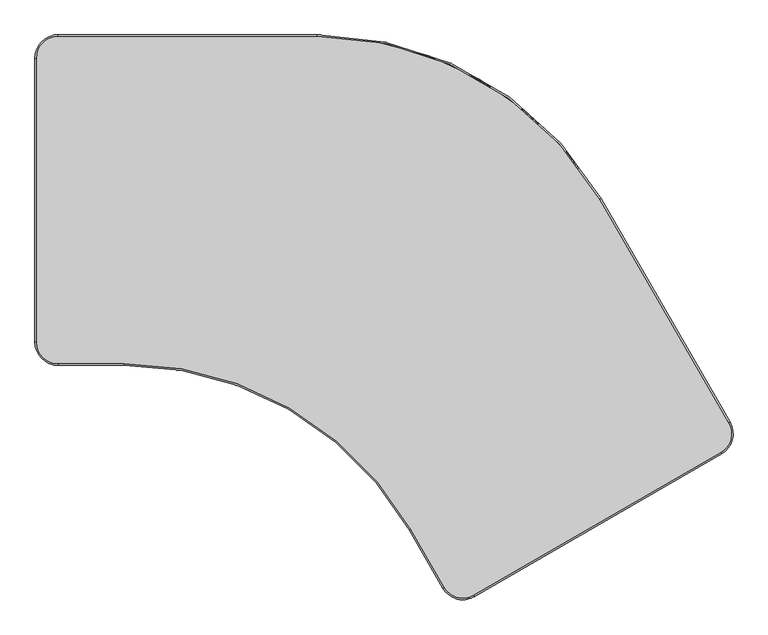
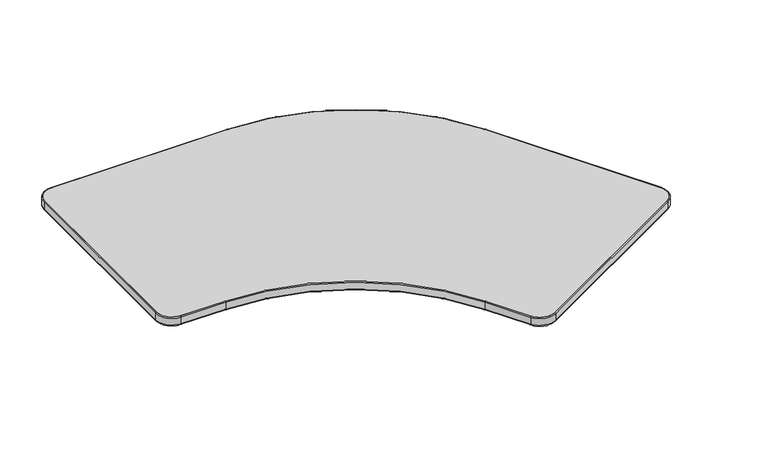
"""IFC4 building model written with IfcOpenShell, lengths in millimetres: furniture geometry, Steelcase - Answer Solution - Universal Table - Corner 120deg - 3mm Edge : 30D x 42W."""

from ifc_helpers import new_model, si_unit, point, frame, frame_2d, origin, place, context, project, spatial, polyline, circle_curve, ellipse_curve, trimmed, segment, composite_curve, outline, extrude, source, transform, mapped, element, save
from ifc_brep_helpers import plane_surface, cylinder_surface, revolved_surface, advanced_brep


def furniture_54dfe461(model_context):
    return source(origin(), model_context, "Body", "SolidModel", [
        advanced_brep(
        [(53.848, -764.8829001, 641.1117977), (0.0, -711.0349001, 641.1117977), (3.048, -711.0349001, 638.1749651), (53.848, -761.8349001, 638.1749651), (53.848, -764.8829001, 665.302106), (0.0, -711.0349001, 665.302106), (53.848, -761.8349001, 668.274), (3.048, -711.0349001, 668.274), (206.1813958, -761.8349001, 638.1749651), (206.1813958, -764.8829001, 641.1117977), (206.1813958, -764.8829001, 665.302106), (206.1813958, -761.8349001, 668.274), (866.5569227, -1146.1508884, 641.1117977), (869.1965682, -1144.6268884, 638.1749651), (866.5569227, -1146.1508884, 665.302106), (869.1965682, -1144.6268884, 668.274), (946.8890581, -1279.1942284, 638.1749651), (944.2494127, -1280.7182284, 641.1117977), (944.2494127, -1280.7182284, 665.302106), (946.8890581, -1279.1942284, 668.274), (1017.8071487, -1300.4279643, 641.1117977), (1016.2831487, -1297.7883189, 638.1749651), (1017.8071487, -1300.4279643, 665.302106), (1016.2831487, -1297.7883189, 668.274), (1588.2063253, -967.5883189, 638.1749651), (1589.7303253, -970.2279643, 641.1117977), (1589.7303253, -970.2279643, 665.302106), (1588.2063253, -967.5883189, 668.274), (1609.4400613, -896.6702284, 641.1117977), (1606.8004158, -898.1942284, 638.1749651), (1609.4400613, -896.6702284, 665.302106), (1606.8004158, -898.1942284, 668.274), (1308.1028684, -380.8349001, 638.1749651), (1310.7425138, -379.3109001, 641.1117977), (1310.7425138, -379.3109001, 665.302106), (1308.1028684, -380.8349001, 668.274), (653.690772, 0.0380999, 641.1117977), (653.690772, -3.0099001, 638.1749651), (653.690772, 0.0380999, 665.302106), (653.690772, -3.0099001, 668.274), (53.848, -3.0099001, 638.1749651), (53.848, 0.0380999, 641.1117977), (53.848, 0.0380999, 665.302106), (53.848, -3.0099001, 668.274), (0.0, -53.8099001, 641.1117977), (3.048, -53.8099001, 638.1749651), (0.0, -53.8099001, 665.302106), (3.048, -53.8099001, 668.274)],
        [
            (0, 1, circle_curve(frame((53.848, -711.0349001, 641.1117977), z_axis=(0.0, 0.0, -1.0), x_axis=(-1.0, 0.0, 0.0)), 53.848)),
            (1, 2, circle_curve(frame((2.9388598, -711.0349001, 641.1117977), z_axis=(0.0, -1.0, 0.0), x_axis=(1.0, 0.0, 0.0)), 2.9388598)),
            (2, 3, circle_curve(frame((53.848, -711.0349001, 638.1749651), z_axis=(0.0, 0.0, 1.0), x_axis=(-1.0, 0.0, 0.0)), 50.8)),
            (3, 0, circle_curve(frame((53.848, -761.9440403, 641.1117977), z_axis=(-1.0, 0.0, 0.0), x_axis=(0.0, 1.0, 0.0)), 2.9388598)),
            (4, 5, circle_curve(frame((53.848, -711.0349001, 665.302106), z_axis=(0.0, 0.0, -1.0), x_axis=(-1.0, 0.0, 0.0)), 53.848)),
            (5, 1),
            (0, 4),
            (6, 7, circle_curve(frame((53.848, -711.0349001, 668.274), z_axis=(0.0, 0.0, -1.0), x_axis=(-1.0, 0.0, 0.0)), 50.8)),
            (7, 5, circle_curve(frame((2.9728441, -711.0349001, 665.302106), z_axis=(0.0, -1.0, 0.0), x_axis=(1.0, 0.0, 0.0)), 2.9728441)),
            (4, 6, circle_curve(frame((53.848, -761.910056, 665.302106), z_axis=(-1.0, 0.0, 0.0), x_axis=(0.0, 1.0, 0.0)), 2.9728441)),
            (2, 7),
            (6, 3),
            (3, 8),
            (8, 9, circle_curve(frame((206.1813958, -761.9440403, 641.1117977), z_axis=(-1.0, 0.0, 0.0), x_axis=(0.0, 1.0, 0.0)), 2.9388598)),
            (9, 0),
            (9, 10),
            (10, 4),
            (10, 11, circle_curve(frame((206.1813958, -761.910056, 665.302106), z_axis=(-1.0, 0.0, 0.0), x_axis=(0.0, 1.0, 0.0)), 2.9728441)),
            (11, 6),
            (11, 8),
            (12, 9, circle_curve(frame((206.1813958, -1527.4188766, 641.1117977), z_axis=(0.0, 0.0, 1.0), x_axis=(0.0, 1.0, 0.0)), 762.5359765)),
            (8, 13, circle_curve(frame((206.1813958, -1527.4188766, 638.1749651), z_axis=(0.0, 0.0, -1.0), x_axis=(0.0, 1.0, 0.0)), 765.5839765)),
            (13, 12, circle_curve(frame((869.10205, -1144.6814584, 641.1117977), z_axis=(-0.49999999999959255, 0.8660254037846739, 0.0), x_axis=(0.8660254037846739, 0.49999999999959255, 0.0)), 2.9388598)),
            (14, 10, circle_curve(frame((206.1813958, -1527.4188766, 665.302106), z_axis=(0.0, 0.0, 1.0), x_axis=(0.0, 1.0, 0.0)), 762.5359765)),
            (12, 14),
            (15, 11, circle_curve(frame((206.1813958, -1527.4188766, 668.274), z_axis=(0.0, 0.0, 1.0), x_axis=(0.0, 1.0, 0.0)), 765.5839765)),
            (14, 15, circle_curve(frame((869.1314813, -1144.6644663, 665.302106), z_axis=(-0.49999999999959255, 0.8660254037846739, 0.0), x_axis=(0.8660254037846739, 0.49999999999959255, 0.0)), 2.9728441)),
            (15, 13),
            (13, 16),
            (16, 17, circle_curve(frame((946.79454, -1279.2487985, 641.1117977), z_axis=(-0.4999999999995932, 0.8660254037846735, 0.0), x_axis=(0.8660254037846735, 0.4999999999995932, 0.0)), 2.9388598)),
            (17, 12),
            (17, 18),
            (18, 14),
            (18, 19, circle_curve(frame((946.8239712, -1279.2318063, 665.302106), z_axis=(-0.4999999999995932, 0.8660254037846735, 0.0), x_axis=(0.8660254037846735, 0.4999999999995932, 0.0)), 2.9728441)),
            (19, 15),
            (19, 16),
            (20, 17, circle_curve(frame((990.8831487, -1253.7942284, 641.1117977), z_axis=(0.0, 0.0, -1.0), x_axis=(-0.8660254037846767, -0.4999999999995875, 0.0)), 53.848)),
            (16, 21, circle_curve(frame((990.8831487, -1253.7942284, 638.1749651), z_axis=(0.0, 0.0, 1.0), x_axis=(-0.8660254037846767, -0.4999999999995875, 0.0)), 50.8)),
            (21, 20, circle_curve(frame((1016.3377187, -1297.8828371, 641.1117977), z_axis=(-0.86602540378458, -0.4999999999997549, 0.0), x_axis=(-0.4999999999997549, 0.86602540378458, 0.0)), 2.9388598)),
            (22, 18, circle_curve(frame((990.8831487, -1253.7942284, 665.302106), z_axis=(0.0, 0.0, -1.0), x_axis=(-0.8660254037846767, -0.4999999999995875, 0.0)), 53.848)),
            (20, 22),
            (23, 19, circle_curve(frame((990.8831487, -1253.7942284, 668.274), z_axis=(0.0, 0.0, -1.0), x_axis=(-0.8660254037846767, -0.4999999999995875, 0.0)), 50.8)),
            (22, 23, circle_curve(frame((1016.3207266, -1297.8534058, 665.302106), z_axis=(-0.8660254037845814, -0.49999999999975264, 0.0), x_axis=(-0.49999999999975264, 0.8660254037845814, 0.0)), 2.9728441)),
            (23, 21),
            (21, 24),
            (24, 25, circle_curve(frame((1588.2608954, -967.6828371, 641.1117977), z_axis=(-0.8660254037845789, -0.49999999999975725, 0.0), x_axis=(-0.49999999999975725, 0.8660254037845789, 0.0)), 2.9388598)),
            (25, 20),
            (25, 26),
            (26, 22),
            (26, 27, circle_curve(frame((1588.2439033, -967.6534058, 665.302106), z_axis=(-0.8660254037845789, -0.49999999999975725, 0.0), x_axis=(-0.49999999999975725, 0.8660254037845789, 0.0)), 2.9728441)),
            (27, 23),
            (27, 24),
            (28, 25, circle_curve(frame((1562.8063253, -923.5942284, 641.1117977), z_axis=(0.0, 0.0, -1.0), x_axis=(0.49999999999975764, -0.8660254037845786, 0.0)), 53.848)),
            (24, 29, circle_curve(frame((1562.8063253, -923.5942284, 638.1749651), z_axis=(0.0, 0.0, 1.0), x_axis=(0.49999999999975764, -0.8660254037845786, 0.0)), 50.8)),
            (29, 28, circle_curve(frame((1606.894934, -898.1396583, 641.1117977), z_axis=(0.5000000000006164, -0.8660254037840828, 0.0), x_axis=(-0.8660254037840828, -0.5000000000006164, 0.0)), 2.9388598)),
            (30, 26, circle_curve(frame((1562.8063253, -923.5942284, 665.302106), z_axis=(0.0, 0.0, -1.0), x_axis=(0.49999999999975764, -0.8660254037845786, 0.0)), 53.848)),
            (28, 30),
            (31, 27, circle_curve(frame((1562.8063253, -923.5942284, 668.274), z_axis=(0.0, 0.0, -1.0), x_axis=(0.49999999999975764, -0.8660254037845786, 0.0)), 50.8)),
            (30, 31, circle_curve(frame((1606.8655027, -898.1566505, 665.302106), z_axis=(0.5000000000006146, -0.8660254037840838, 0.0), x_axis=(-0.8660254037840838, -0.5000000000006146, 0.0)), 2.9728441)),
            (31, 29),
            (29, 32),
            (32, 33, circle_curve(frame((1308.1973865, -380.7803301, 641.1117977), z_axis=(0.5000000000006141, -0.8660254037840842, 0.0), x_axis=(-0.8660254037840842, -0.5000000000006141, 0.0)), 2.9388598)),
            (33, 28),
            (33, 34),
            (34, 30),
            (34, 35, circle_curve(frame((1308.1679553, -380.7973222, 665.302106), z_axis=(0.5000000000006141, -0.8660254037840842, 0.0), x_axis=(-0.8660254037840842, -0.5000000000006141, 0.0)), 2.9728441)),
            (35, 31),
            (35, 32),
            (36, 33, circle_curve(frame((653.690772, -758.6599001, 641.1117977), z_axis=(0.0, 0.0, -1.0), x_axis=(0.8660254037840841, 0.5000000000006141, 0.0)), 758.698)),
            (32, 37, circle_curve(frame((653.690772, -758.6599001, 638.1749651), z_axis=(0.0, 0.0, 1.0), x_axis=(0.8660254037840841, 0.5000000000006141, 0.0)), 755.65)),
            (37, 36, circle_curve(frame((653.690772, -2.90076, 641.1117977), z_axis=(1.0, 0.0, 0.0), x_axis=(0.0, -1.0, 0.0)), 2.9388598)),
            (38, 34, circle_curve(frame((653.690772, -758.6599001, 665.302106), z_axis=(0.0, 0.0, -1.0), x_axis=(0.8660254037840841, 0.5000000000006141, 0.0)), 758.698)),
            (36, 38),
            (39, 35, circle_curve(frame((653.690772, -758.6599001, 668.274), z_axis=(0.0, 0.0, -1.0), x_axis=(0.8660254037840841, 0.5000000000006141, 0.0)), 755.65)),
            (38, 39, circle_curve(frame((653.690772, -2.9347443, 665.302106), z_axis=(1.0, 0.0, 0.0), x_axis=(0.0, -1.0, 0.0)), 2.9728441)),
            (39, 37),
            (37, 40),
            (40, 41, circle_curve(frame((53.848, -2.90076, 641.1117977), z_axis=(1.0, 0.0, 0.0), x_axis=(0.0, -1.0, 0.0)), 2.9388598)),
            (41, 36),
            (41, 42),
            (42, 38),
            (42, 43, circle_curve(frame((53.848, -2.9347443, 665.302106), z_axis=(1.0, 0.0, 0.0), x_axis=(0.0, -1.0, 0.0)), 2.9728441)),
            (43, 39),
            (43, 40),
            (44, 41, circle_curve(frame((53.848, -53.8099001, 641.1117977), z_axis=(0.0, 0.0, -1.0), x_axis=(0.0, 1.0, 0.0)), 53.848)),
            (40, 45, circle_curve(frame((53.848, -53.8099001, 638.1749651), z_axis=(0.0, 0.0, 1.0), x_axis=(0.0, 1.0, 0.0)), 50.8)),
            (45, 44, circle_curve(frame((2.9388598, -53.8099001, 641.1117977), z_axis=(0.0, 1.0, 0.0), x_axis=(1.0, 0.0, 0.0)), 2.9388598)),
            (46, 42, circle_curve(frame((53.848, -53.8099001, 665.302106), z_axis=(0.0, 0.0, -1.0), x_axis=(0.0, 1.0, 0.0)), 53.848)),
            (44, 46),
            (47, 43, circle_curve(frame((53.848, -53.8099001, 668.274), z_axis=(0.0, 0.0, -1.0), x_axis=(0.0, 1.0, 0.0)), 50.8)),
            (46, 47, circle_curve(frame((2.9728441, -53.8099001, 665.302106), z_axis=(0.0, 1.0, 0.0), x_axis=(1.0, 0.0, 0.0)), 2.9728441)),
            (47, 45),
            (45, 2),
            (1, 44),
            (5, 46),
            (7, 47),
        ],
        [
            revolved_surface(trimmed(ellipse_curve(frame((2.9388598, -711.0349001, 641.1117977), z_axis=(0.0, 1.0, 0.0), x_axis=(1.0, 0.0, 0.0)), 2.9388598, 2.9388598), [point((3.048, -711.0349001, 638.1749651))], [point((0.0, -711.0349001, 641.1117977))], True, "CARTESIAN"), (53.848, -711.0349001, 668.274), (0.0, 0.0, 1.0)),
            cylinder_surface(frame((53.848, -711.0349001, 668.274), z_axis=(0.0, 0.0, 1.0), x_axis=(-1.0, 0.0, 0.0)), 53.848),
            revolved_surface(trimmed(ellipse_curve(frame((2.9728441, -711.0349001, 665.302106), z_axis=(0.0, 1.0, 0.0), x_axis=(1.0, 0.0, 0.0)), 2.9728441, 2.9728441), [point((0.0, -711.0349001, 665.302106))], [point((3.048, -711.0349001, 668.274))], True, "CARTESIAN"), (53.848, -711.0349001, 668.274), (0.0, 0.0, 1.0)),
            revolved_surface(polyline([(3.048000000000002, -711.0349001, 668.274), (3.048000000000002, -711.0349001, 638.1749651)]), (53.848, -711.0349001, 668.274), (0.0, 0.0, 1.0)),
            cylinder_surface(frame((53.848, -761.9440403, 641.1117977), z_axis=(-1.0, 0.0, 0.0), x_axis=(0.0, 1.0, 0.0)), 2.9388598),
            plane_surface(frame((53.848, -764.8829001, 641.1117977), z_axis=(0.0, -1.0, 0.0), x_axis=(1.0, 0.0, 0.0))),
            cylinder_surface(frame((53.848, -761.910056, 665.302106), z_axis=(-1.0, 0.0, 0.0), x_axis=(0.0, 1.0, 0.0)), 2.9728441),
            plane_surface(frame((53.848, -761.8349001, 668.274), z_axis=(0.0, 1.0, 0.0), x_axis=(1.0, 0.0, 0.0))),
            revolved_surface(trimmed(ellipse_curve(frame((206.1813958, -761.9440403, 641.1117977), z_axis=(-1.0, 0.0, 0.0), x_axis=(0.0, 1.0, 0.0)), 2.9388598, 2.9388598), [point((206.1813958, -761.8349001, 638.1749651))], [point((206.1813958, -764.8829001, 641.1117977))], True, "CARTESIAN"), (206.1813958, -1527.4188766, 668.274), (0.0, 0.0, -1.0)),
            revolved_surface(polyline([(206.1813958, -764.8829001, 641.1117977), (206.1813958, -764.8829001, 665.302106)]), (206.1813958, -1527.4188766, 668.274), (0.0, 0.0, -1.0)),
            revolved_surface(trimmed(ellipse_curve(frame((206.1813958, -761.910056, 665.302106), z_axis=(-1.0, 0.0, 0.0), x_axis=(0.0, 1.0, 0.0)), 2.9728441, 2.9728441), [point((206.1813958, -764.8829001, 665.302106))], [point((206.1813958, -761.8349001, 668.274))], True, "CARTESIAN"), (206.1813958, -1527.4188766, 668.274), (0.0, 0.0, -1.0)),
            cylinder_surface(frame((206.1813958, -1527.4188766, 668.274), z_axis=(0.0, 0.0, -1.0), x_axis=(0.0, 1.0, 0.0)), 765.5839765),
            cylinder_surface(frame((869.10205, -1144.6814584, 641.1117977), z_axis=(-0.4999999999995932, 0.8660254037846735, 0.0), x_axis=(0.8660254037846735, 0.4999999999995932, 0.0)), 2.9388598),
            plane_surface(frame((866.5569227, -1146.1508884, 641.1117977), z_axis=(-0.8660254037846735, -0.4999999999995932, 0.0), x_axis=(0.4999999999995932, -0.8660254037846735, 0.0))),
            cylinder_surface(frame((869.1314813, -1144.6644663, 665.302106), z_axis=(-0.4999999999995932, 0.8660254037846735, 0.0), x_axis=(0.8660254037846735, 0.4999999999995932, 0.0)), 2.9728441),
            plane_surface(frame((869.1965682, -1144.6268884, 668.274), z_axis=(0.8660254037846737, 0.4999999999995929, 0.0), x_axis=(0.4999999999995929, -0.8660254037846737, 0.0))),
            revolved_surface(trimmed(ellipse_curve(frame((946.79454, -1279.2487985, 641.1117977), z_axis=(-0.4999999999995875, 0.8660254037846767, 0.0), x_axis=(0.8660254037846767, 0.4999999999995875, 0.0)), 2.9388598, 2.9388598), [point((946.8890581, -1279.1942284, 638.1749651))], [point((944.2494127, -1280.7182284, 641.1117977))], True, "CARTESIAN"), (990.8831487, -1253.7942284, 668.274), (0.0, 0.0, 1.0)),
            cylinder_surface(frame((990.8831487, -1253.7942284, 668.274), z_axis=(0.0, 0.0, 1.0), x_axis=(-0.8660254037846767, -0.4999999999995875, 0.0)), 53.848),
            revolved_surface(trimmed(ellipse_curve(frame((946.8239712, -1279.2318063, 665.302106), z_axis=(-0.4999999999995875, 0.8660254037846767, 0.0), x_axis=(0.8660254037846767, 0.4999999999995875, 0.0)), 2.9728441, 2.9728441), [point((944.2494127, -1280.7182284, 665.302106))], [point((946.8890581, -1279.1942284, 668.274))], True, "CARTESIAN"), (990.8831487, -1253.7942284, 668.274), (0.0, 0.0, 1.0)),
            revolved_surface(polyline([(946.8890581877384, -1279.194228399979, 668.274), (946.8890581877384, -1279.194228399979, 638.1749651)]), (990.8831487, -1253.7942284, 668.274), (0.0, 0.0, 1.0)),
            cylinder_surface(frame((1016.3377187, -1297.8828371, 641.1117977), z_axis=(-0.8660254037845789, -0.49999999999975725, 0.0), x_axis=(-0.49999999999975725, 0.8660254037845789, 0.0)), 2.9388598),
            plane_surface(frame((1017.8071487, -1300.4279643, 641.1117977), z_axis=(0.4999999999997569, -0.8660254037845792, 0.0), x_axis=(0.8660254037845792, 0.4999999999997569, 0.0))),
            cylinder_surface(frame((1016.3207266, -1297.8534058, 665.302106), z_axis=(-0.8660254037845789, -0.49999999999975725, 0.0), x_axis=(-0.49999999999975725, 0.8660254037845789, 0.0)), 2.9728441),
            plane_surface(frame((1016.2831487, -1297.7883189, 668.274), z_axis=(-0.49999999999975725, 0.8660254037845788, 0.0), x_axis=(0.8660254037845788, 0.49999999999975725, 0.0))),
            revolved_surface(trimmed(ellipse_curve(frame((1588.2608954, -967.6828371, 641.1117977), z_axis=(-0.8660254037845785, -0.4999999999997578, 0.0), x_axis=(-0.4999999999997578, 0.8660254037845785, 0.0)), 2.9388598, 2.9388598), [point((1588.2063253, -967.5883189, 638.1749651))], [point((1589.7303253, -970.2279643, 641.1117977))], True, "CARTESIAN"), (1562.8063253, -923.5942284, 668.274), (0.0, 0.0, 1.0)),
            cylinder_surface(frame((1562.8063253, -923.5942284, 668.274), z_axis=(0.0, 0.0, 1.0), x_axis=(0.49999999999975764, -0.8660254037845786, 0.0)), 53.848),
            revolved_surface(trimmed(ellipse_curve(frame((1588.2439033, -967.6534058, 665.302106), z_axis=(-0.8660254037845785, -0.4999999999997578, 0.0), x_axis=(-0.4999999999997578, 0.8660254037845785, 0.0)), 2.9728441, 2.9728441), [point((1589.7303253, -970.2279643, 665.302106))], [point((1588.2063253, -967.5883189, 668.274))], True, "CARTESIAN"), (1562.8063253, -923.5942284, 668.274), (0.0, 0.0, 1.0)),
            revolved_surface(polyline([(1588.2063252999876, -967.5883189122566, 668.274), (1588.2063252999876, -967.5883189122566, 638.1749651)]), (1562.8063253, -923.5942284, 668.274), (0.0, 0.0, 1.0)),
            cylinder_surface(frame((1606.894934, -898.1396583, 641.1117977), z_axis=(0.5000000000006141, -0.8660254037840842, 0.0), x_axis=(-0.8660254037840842, -0.5000000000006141, 0.0)), 2.9388598),
            plane_surface(frame((1609.4400613, -896.6702284, 641.1117977), z_axis=(0.8660254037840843, 0.5000000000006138, 0.0), x_axis=(-0.5000000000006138, 0.8660254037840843, 0.0))),
            cylinder_surface(frame((1606.8655027, -898.1566505, 665.302106), z_axis=(0.5000000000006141, -0.8660254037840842, 0.0), x_axis=(-0.8660254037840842, -0.5000000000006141, 0.0)), 2.9728441),
            plane_surface(frame((1606.8004158, -898.1942284, 668.274), z_axis=(-0.8660254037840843, -0.5000000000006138, 0.0), x_axis=(-0.5000000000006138, 0.8660254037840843, 0.0))),
            revolved_surface(trimmed(ellipse_curve(frame((1308.1973865, -380.7803301, 641.1117977), z_axis=(0.5000000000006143, -0.866025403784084, 0.0), x_axis=(-0.866025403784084, -0.5000000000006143, 0.0)), 2.9388598, 2.9388598), [point((1308.1028684, -380.8349001, 638.1749651))], [point((1310.7425138, -379.3109001, 641.1117977))], True, "CARTESIAN"), (653.690772, -758.6599001, 668.274), (0.0, 0.0, 1.0)),
            cylinder_surface(frame((653.690772, -758.6599001, 668.274), z_axis=(0.0, 0.0, 1.0), x_axis=(0.8660254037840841, 0.5000000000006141, 0.0)), 758.698),
            revolved_surface(trimmed(ellipse_curve(frame((1308.1679553, -380.7973222, 665.302106), z_axis=(0.5000000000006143, -0.866025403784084, 0.0), x_axis=(-0.866025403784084, -0.5000000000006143, 0.0)), 2.9728441, 2.9728441), [point((1310.7425138, -379.3109001, 665.302106))], [point((1308.1028684, -380.8349001, 668.274))], True, "CARTESIAN"), (653.690772, -758.6599001, 668.274), (0.0, 0.0, 1.0)),
            revolved_surface(polyline([(1308.102868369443, -380.83490009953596, 668.274), (1308.102868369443, -380.83490009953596, 638.1749651)]), (653.690772, -758.6599001, 668.274), (0.0, 0.0, 1.0)),
            cylinder_surface(frame((653.690772, -2.90076, 641.1117977), z_axis=(1.0, 0.0, 0.0), x_axis=(0.0, -1.0, 0.0)), 2.9388598),
            plane_surface(frame((653.690772, 0.0380999, 641.1117977), z_axis=(0.0, 1.0, 0.0), x_axis=(-1.0, 0.0, 0.0))),
            cylinder_surface(frame((653.690772, -2.9347443, 665.302106), z_axis=(1.0, 0.0, 0.0), x_axis=(0.0, -1.0, 0.0)), 2.9728441),
            plane_surface(frame((653.690772, -3.0099001, 668.274), z_axis=(0.0, -1.0, 0.0), x_axis=(-1.0, 0.0, 0.0))),
            revolved_surface(trimmed(ellipse_curve(frame((53.848, -2.90076, 641.1117977), z_axis=(1.0, 0.0, 0.0), x_axis=(0.0, -1.0, 0.0)), 2.9388598, 2.9388598), [point((53.848, -3.0099001, 638.1749651))], [point((53.848, 0.0380999, 641.1117977))], True, "CARTESIAN"), (53.848, -53.8099001, 668.274), (0.0, 0.0, 1.0)),
            cylinder_surface(frame((53.848, -53.8099001, 668.274), z_axis=(0.0, 0.0, 1.0), x_axis=(0.0, 1.0, 0.0)), 53.848),
            revolved_surface(trimmed(ellipse_curve(frame((53.848, -2.9347443, 665.302106), z_axis=(1.0, 0.0, 0.0), x_axis=(0.0, -1.0, 0.0)), 2.9728441, 2.9728441), [point((53.848, 0.0380999, 665.302106))], [point((53.848, -3.0099001, 668.274))], True, "CARTESIAN"), (53.848, -53.8099001, 668.274), (0.0, 0.0, 1.0)),
            revolved_surface(polyline([(53.848, -3.009900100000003, 668.274), (53.848, -3.009900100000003, 638.1749651)]), (53.848, -53.8099001, 668.274), (0.0, 0.0, 1.0)),
            cylinder_surface(frame((2.9388598, -53.8099001, 641.1117977), z_axis=(0.0, 1.0, 0.0), x_axis=(1.0, 0.0, 0.0)), 2.9388598),
            plane_surface(frame((0.0, -53.8099001, 641.1117977), z_axis=(-1.0, 0.0, 0.0), x_axis=(0.0, -1.0, 0.0))),
            cylinder_surface(frame((2.9728441, -53.8099001, 665.302106), z_axis=(0.0, 1.0, 0.0), x_axis=(1.0, 0.0, 0.0)), 2.9728441),
            plane_surface(frame((3.048, -53.8099001, 668.274), z_axis=(1.0, 0.0, 0.0), x_axis=(0.0, -1.0, 0.0))),
        ],
        [
            (0, [[1, 2, 3, 4]]),
            (1, [[5, 6, -1, 7]]),
            (2, [[8, 9, -5, 10]]),
            (3, [[-3, 11, -8, 12]]),
            (4, [[-4, 13, 14, 15]]),
            (5, [[-7, -15, 16, 17]]),
            (6, [[-10, -17, 18, 19]]),
            (7, [[-12, -19, 20, -13]]),
            (8, [[21, -14, 22, 23]]),
            (9, [[24, -16, -21, 25]]),
            (10, [[26, -18, -24, 27]]),
            (11, [[-22, -20, -26, 28]]),
            (12, [[-23, 29, 30, 31]]),
            (13, [[-25, -31, 32, 33]]),
            (14, [[-27, -33, 34, 35]]),
            (15, [[-28, -35, 36, -29]]),
            (16, [[37, -30, 38, 39]]),
            (17, [[40, -32, -37, 41]]),
            (18, [[42, -34, -40, 43]]),
            (19, [[-38, -36, -42, 44]]),
            (20, [[-39, 45, 46, 47]]),
            (21, [[-41, -47, 48, 49]]),
            (22, [[-43, -49, 50, 51]]),
            (23, [[-44, -51, 52, -45]]),
            (24, [[53, -46, 54, 55]]),
            (25, [[56, -48, -53, 57]]),
            (26, [[58, -50, -56, 59]]),
            (27, [[-54, -52, -58, 60]]),
            (28, [[-55, 61, 62, 63]]),
            (29, [[-57, -63, 64, 65]]),
            (30, [[-59, -65, 66, 67]]),
            (31, [[-60, -67, 68, -61]]),
            (32, [[69, -62, 70, 71]]),
            (33, [[72, -64, -69, 73]]),
            (34, [[74, -66, -72, 75]]),
            (35, [[-70, -68, -74, 76]]),
            (36, [[-71, 77, 78, 79]]),
            (37, [[-73, -79, 80, 81]]),
            (38, [[-75, -81, 82, 83]]),
            (39, [[-76, -83, 84, -77]]),
            (40, [[85, -78, 86, 87]]),
            (41, [[88, -80, -85, 89]]),
            (42, [[90, -82, -88, 91]]),
            (43, [[-86, -84, -90, 92]]),
            (44, [[-87, 93, -2, 94]]),
            (45, [[-89, -94, -6, 95]]),
            (46, [[-91, -95, -9, 96]]),
            (47, [[-92, -96, -11, -93]]),
        ],
    ),
        extrude(outline(composite_curve([segment(polyline([(53.848, -3.0099001), (653.690772, -3.0099001)]), True, "CONTINUOUS"), segment(trimmed(circle_curve(frame_2d((653.690772, -758.6599001)), 755.65), [point((653.690772, -3.0099001))], [point((1308.1028684, -380.8349001))], False, "CARTESIAN"), True, "CONTINUOUS"), segment(polyline([(1308.1028684, -380.8349001), (1606.8004158, -898.1942284)]), True, "CONTINUOUS"), segment(trimmed(circle_curve(frame_2d((1562.8063253, -923.5942284)), 50.8), [point((1606.8004158, -898.1942284))], [point((1588.2063253, -967.5883189))], False, "CARTESIAN"), True, "CONTINUOUS"), segment(polyline([(1588.2063253, -967.5883189), (1016.2831487, -1297.7883189)]), True, "CONTINUOUS"), segment(trimmed(circle_curve(frame_2d((990.8831487, -1253.7942284)), 50.8), [point((1016.2831487, -1297.7883189))], [point((946.8890581, -1279.1942284))], False, "CARTESIAN"), True, "CONTINUOUS"), segment(polyline([(946.8890581, -1279.1942284), (869.1965682, -1144.6268884)]), True, "CONTINUOUS"), segment(trimmed(circle_curve(frame_2d((206.1813958, -1527.4188766)), 765.5839765), [point((869.1965682, -1144.6268884))], [point((206.1813958, -761.8349001))], True, "CARTESIAN"), True, "CONTINUOUS"), segment(polyline([(206.1813958, -761.8349001), (53.848, -761.8349001)]), True, "CONTINUOUS"), segment(trimmed(circle_curve(frame_2d((53.848, -711.0349001)), 50.8), [point((53.848, -761.8349001))], [point((3.048, -711.0349001))], False, "CARTESIAN"), True, "CONTINUOUS"), segment(polyline([(3.048, -711.0349001), (3.048, -53.8099001)]), True, "CONTINUOUS"), segment(trimmed(circle_curve(frame_2d((53.848, -53.8099001)), 50.8), [point((3.048, -53.8099001))], [point((53.848, -3.0099001))], False, "CARTESIAN"), True, "CONTINUOUS")], self_intersect=False)), frame((0.0, 0.0, 638.1749651), z_axis=(0.0, 0.0, 1.0), x_axis=(1.0, 0.0, 0.0)), (0.0, 0.0, 1.0), 30.0990349),
    ])


if __name__ == "__main__":
    model = new_model("IFC4")
    model_context = context("Model", 3, world=origin())
    ifc_project = project(units=[si_unit("LENGTHUNIT", "METRE", prefix="MILLI")], contexts=[model_context])
    site = spatial("IfcSite", under=ifc_project)
    building = spatial("IfcBuilding", under=site)
    placement = place(None, origin())
    furniture_shape = furniture_54dfe461(model_context)
    element("IfcFurniture", 1, ObjectType="Steelcase - Answer Solution - Universal Table - Corner 120deg - 3mm Edge : 30D x 42W", at=placement, inside=building, context=model_context, shape_type="MappedRepresentation", body=[
        mapped(furniture_shape, transform((0.0, 0.0, 0.0), x_axis=(1.0, 0.0, 0.0), y_axis=(0.0, 1.0, 0.0), z_axis=(0.0, 0.0, 1.0))),
    ])
    save(model, "model.ifc")
